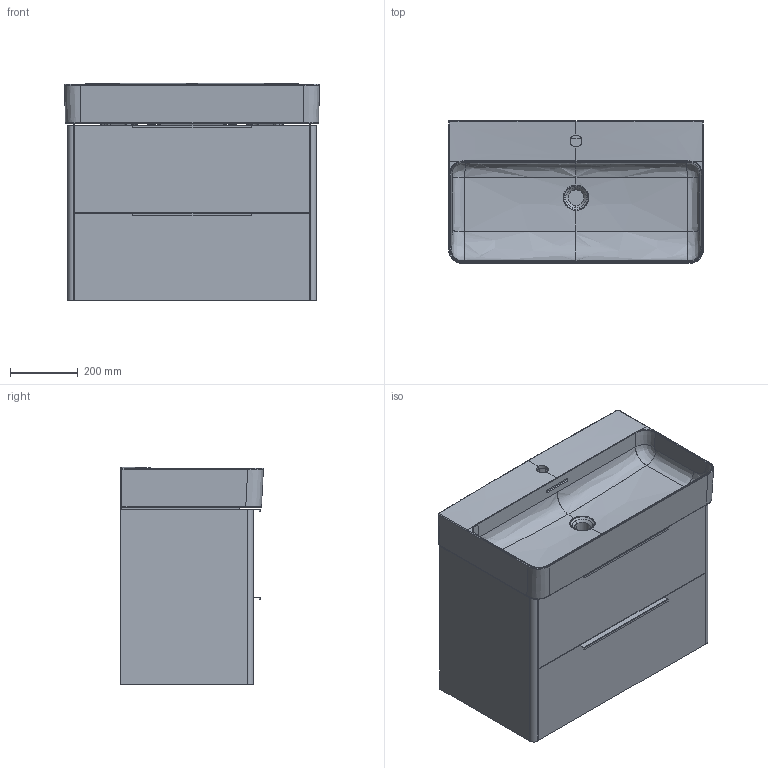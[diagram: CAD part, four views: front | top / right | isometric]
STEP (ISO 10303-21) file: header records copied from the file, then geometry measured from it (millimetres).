
FILE_DESCRIPTION(/* description */ (''),/* implementation_level */ '2;1');
FILE_NAME(/* name */ 'C:\Users\User33\Desktop\Base\3D01_402352.stp',/* time_stamp */ '2018-05-05T14:45:35+02:00',/* author */ ('User33'),/* organization */ (''),/* preprocessor_version */ 'ST-DEVELOPER v16.13',/* originating_system */ 'Autodesk Inventor 2018',/* authorisation */ '');
FILE_SCHEMA (('AUTOMOTIVE_DESIGN { 1 0 10303 214 3 1 1 }'));
Products named in the file (24): Scheletro monoblocco curvo 733; Catena_superiore; Frontale cassetto superiore; Catena inferiore; Fianco sx; Fianco dx; Fondo mobile; Fondo cassetto superiore; Fondo cassetto inferiore; Retro cassetto superiore; Fascia rialzo; Retro_cassetto inferiore; Frontale cassetto inferiore; Maniglia superiore; maniglia inferiore; 300-84; 300-84_1; 300-84_2; 300-84_3; 300-84_MIR4; 300-84_1_MIR4; 300-84_2_MIR4; 300-84_3_MIR4; HY10285......1_A.01
Assembly tree (25 placements, depth 3):
  Scheletro monoblocco curvo 733
    Catena_superiore
    Frontale cassetto superiore
    Catena inferiore
    Fianco sx
    Fianco dx
    Fondo mobile
    Fondo cassetto superiore
    Fondo cassetto inferiore
    Retro cassetto superiore
    Fascia rialzo
    Retro_cassetto inferiore
    Frontale cassetto inferiore
    Maniglia superiore
    maniglia inferiore
    300-84  x2
      300-84_1
      300-84_2
      300-84_3
    300-84_MIR4  x2
      300-84_1_MIR4
      300-84_2_MIR4
      300-84_3_MIR4
    HY10285......1_A.01
Bounding box: 749.91 x 419.95 x 640.9 mm (x, y, z)
Volume: 28909024 mm3; surface area: 5378271.2 mm2
Topology: 28 solids, 586 shells, 1529 faces, 5263 edges, 4349 vertices
Faces by surface type: plane 825, bspline 356, cylinder 301, torus 29, sphere 14, cone 4
Full cylindrical faces by diameter (mm): 4 x8, 4.1 x4, 5 x8, 5.1 x4, 6 x8, 6.3 x48
Entity records: 139675 total; most frequent: CARTESIAN_POINT 106631, DIRECTION 5724, ORIENTED_EDGE 5413, EDGE_CURVE 4006, VERTEX_POINT 3565, AXIS2_PLACEMENT_3D 2026, LINE 1672, VECTOR 1672
